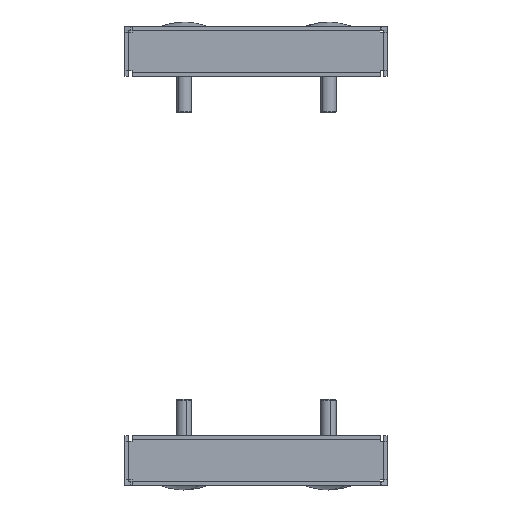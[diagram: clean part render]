
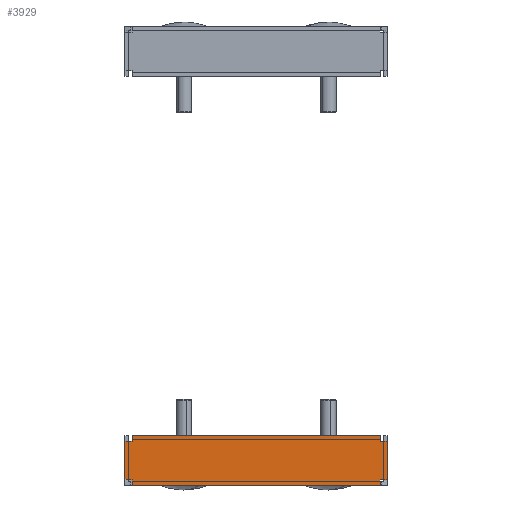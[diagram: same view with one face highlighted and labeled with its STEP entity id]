
A CAD part, left-side view. The second image highlights one B-rep face of the part: STEP entity #3929.
In plain terms, the highlighted planar face has unit normal (-1, 0, 0).
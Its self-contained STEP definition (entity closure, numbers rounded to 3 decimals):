
#26 = ORIENTED_EDGE ( 'NONE', *, *, #4561, .T. ) ;
#35 = LINE ( 'NONE', #3122, #6276 ) ;
#46 = PLANE ( 'NONE',  #2407 ) ;
#89 = CARTESIAN_POINT ( 'NONE',  ( -200., -47.3, 15.4 ) ) ;
#203 = VERTEX_POINT ( 'NONE', #3639 ) ;
#234 = DIRECTION ( 'NONE',  ( 0., 0., 1. ) ) ;
#245 = EDGE_CURVE ( 'NONE', #1990, #8384, #3584, .T. ) ;
#259 = CARTESIAN_POINT ( 'NONE',  ( -200., 49.299, 0.734 ) ) ;
#285 = LINE ( 'NONE', #6387, #9744 ) ;
#361 = LINE ( 'NONE', #8034, #8534 ) ;
#478 = VECTOR ( 'NONE', #9352, 1000. ) ;
#537 = DIRECTION ( 'NONE',  ( 0., -1., 0. ) ) ;
#670 = CARTESIAN_POINT ( 'NONE',  ( -200., -50., 15.4 ) ) ;
#772 = VERTEX_POINT ( 'NONE', #670 ) ;
#842 = ORIENTED_EDGE ( 'NONE', *, *, #4607, .T. ) ;
#968 = DIRECTION ( 'NONE',  ( 0., 0., -1. ) ) ;
#985 = CARTESIAN_POINT ( 'NONE',  ( -200., 47.3, -1.5 ) ) ;
#987 = CARTESIAN_POINT ( 'NONE',  ( -200., -47.9, 15.4 ) ) ;
#1218 = CARTESIAN_POINT ( 'NONE',  ( -200., 47.9, 15.4 ) ) ;
#1245 = ORIENTED_EDGE ( 'NONE', *, *, #1907, .F. ) ;
#1402 = ORIENTED_EDGE ( 'NONE', *, *, #6315, .F. ) ;
#1430 = DIRECTION ( 'NONE',  ( 0., -1., 0. ) ) ;
#1632 = EDGE_CURVE ( 'NONE', #4435, #772, #3771, .T. ) ;
#1661 = CARTESIAN_POINT ( 'NONE',  ( -200., -47.9, 0.6 ) ) ;
#1791 = CARTESIAN_POINT ( 'NONE',  ( -200., -47.3, 0. ) ) ;
#1837 = VECTOR ( 'NONE', #537, 1000. ) ;
#1907 = EDGE_CURVE ( 'NONE', #9873, #1990, #285, .T. ) ;
#1990 = VERTEX_POINT ( 'NONE', #6396 ) ;
#1994 = CARTESIAN_POINT ( 'NONE',  ( -200., -48.249, 0.637 ) ) ;
#2049 = CARTESIAN_POINT ( 'NONE',  ( -200., 47.9, 15.4 ) ) ;
#2373 = FACE_OUTER_BOUND ( 'NONE', #5038, .T. ) ;
#2395 = CARTESIAN_POINT ( 'NONE',  ( -200., -50., 0. ) ) ;
#2407 = AXIS2_PLACEMENT_3D ( 'NONE', #9324, #9375, #8636 ) ;
#2436 = CARTESIAN_POINT ( 'NONE',  ( -200., 48.249, 0.637 ) ) ;
#2505 = CARTESIAN_POINT ( 'NONE',  ( -200., 50., 0. ) ) ;
#2646 = CARTESIAN_POINT ( 'NONE',  ( -200., 50., 0.777 ) ) ;
#2659 = VERTEX_POINT ( 'NONE', #2049 ) ;
#2744 = ORIENTED_EDGE ( 'NONE', *, *, #3371, .T. ) ;
#2766 = LINE ( 'NONE', #2958, #7080 ) ;
#2775 = VECTOR ( 'NONE', #6249, 1000. ) ;
#2802 = ORIENTED_EDGE ( 'NONE', *, *, #3999, .T. ) ;
#2892 = CARTESIAN_POINT ( 'NONE',  ( -200., 47.9, 0.6 ) ) ;
#2958 = CARTESIAN_POINT ( 'NONE',  ( -200., 0., -1.5 ) ) ;
#3122 = CARTESIAN_POINT ( 'NONE',  ( -200., 47.9, 15.4 ) ) ;
#3156 = LINE ( 'NONE', #2395, #6660 ) ;
#3371 = EDGE_CURVE ( 'NONE', #8149, #6115, #8925, .T. ) ;
#3584 = LINE ( 'NONE', #5088, #1837 ) ;
#3639 = CARTESIAN_POINT ( 'NONE',  ( -200., -47.3, 15.4 ) ) ;
#3670 = CARTESIAN_POINT ( 'NONE',  ( -200., -50., 0.777 ) ) ;
#3673 = EDGE_CURVE ( 'NONE', #203, #8384, #9215, .T. ) ;
#3708 = ORIENTED_EDGE ( 'NONE', *, *, #6697, .F. ) ;
#3771 = LINE ( 'NONE', #5992, #7021 ) ;
#3929 = ADVANCED_FACE ( 'NONE', ( #2373 ), #46, .F. ) ;
#3950 = ORIENTED_EDGE ( 'NONE', *, *, #1632, .F. ) ;
#3997 = CARTESIAN_POINT ( 'NONE',  ( -200., 50., 15.4 ) ) ;
#3999 = EDGE_CURVE ( 'NONE', #4435, #203, #361, .T. ) ;
#4043 = VECTOR ( 'NONE', #8260, 1000. ) ;
#4048 = ORIENTED_EDGE ( 'NONE', *, *, #4765, .F. ) ;
#4324 = DIRECTION ( 'NONE',  ( 0., -1., 0. ) ) ;
#4407 = DIRECTION ( 'NONE',  ( 0., 1., 0. ) ) ;
#4421 = CARTESIAN_POINT ( 'NONE',  ( -200., -47.9, 0.6 ) ) ;
#4435 = VERTEX_POINT ( 'NONE', #987 ) ;
#4455 = LINE ( 'NONE', #1218, #7915 ) ;
#4561 = EDGE_CURVE ( 'NONE', #6546, #8325, #8689, .T. ) ;
#4592 = ORIENTED_EDGE ( 'NONE', *, *, #6404, .T. ) ;
#4607 = EDGE_CURVE ( 'NONE', #8978, #5195, #2766, .T. ) ;
#4641 = DIRECTION ( 'NONE',  ( 0., 0., 1. ) ) ;
#4643 = ORIENTED_EDGE ( 'NONE', *, *, #245, .F. ) ;
#4748 = VERTEX_POINT ( 'NONE', #7959 ) ;
#4758 = LINE ( 'NONE', #1661, #6604 ) ;
#4765 = EDGE_CURVE ( 'NONE', #4748, #5195, #5701, .T. ) ;
#4915 = ORIENTED_EDGE ( 'NONE', *, *, #9417, .T. ) ;
#4964 = CARTESIAN_POINT ( 'NONE',  ( -200., -47.9, 0.6 ) ) ;
#5038 = EDGE_LOOP ( 'NONE', ( #2802, #8558, #4643, #1245, #3708, #6909, #4592, #2744, #4915, #9043, #842, #4048, #6875, #26, #1402, #3950 ) ) ;
#5082 = CARTESIAN_POINT ( 'NONE',  ( -200., -49.299, 0.734 ) ) ;
#5088 = CARTESIAN_POINT ( 'NONE',  ( -200., 0., 17.5 ) ) ;
#5157 = EDGE_CURVE ( 'NONE', #6546, #4748, #4758, .T. ) ;
#5176 = CARTESIAN_POINT ( 'NONE',  ( -200., -48.599, 0.674 ) ) ;
#5195 = VERTEX_POINT ( 'NONE', #6410 ) ;
#5406 = DIRECTION ( 'NONE',  ( 0., 1., 0. ) ) ;
#5409 = CARTESIAN_POINT ( 'NONE',  ( -200., 48.599, 0.674 ) ) ;
#5701 = LINE ( 'NONE', #1791, #478 ) ;
#5741 = EDGE_CURVE ( 'NONE', #2659, #9434, #4455, .T. ) ;
#5815 = EDGE_CURVE ( 'NONE', #8682, #8978, #8469, .T. ) ;
#5854 = CARTESIAN_POINT ( 'NONE',  ( -200., -50., 0.777 ) ) ;
#5992 = CARTESIAN_POINT ( 'NONE',  ( -200., 0., 15.4 ) ) ;
#6115 = VERTEX_POINT ( 'NONE', #2892 ) ;
#6249 = DIRECTION ( 'NONE',  ( 0., -1., 0. ) ) ;
#6257 = VECTOR ( 'NONE', #4641, 1000. ) ;
#6270 = VECTOR ( 'NONE', #968, 1000. ) ;
#6276 = VECTOR ( 'NONE', #1430, 1000. ) ;
#6315 = EDGE_CURVE ( 'NONE', #772, #8325, #3156, .T. ) ;
#6320 = DIRECTION ( 'NONE',  ( 0., 0., -1. ) ) ;
#6358 = CARTESIAN_POINT ( 'NONE',  ( -200., 47.9, 0.6 ) ) ;
#6387 = CARTESIAN_POINT ( 'NONE',  ( -200., 47.3, 0. ) ) ;
#6396 = CARTESIAN_POINT ( 'NONE',  ( -200., 47.3, 17.5 ) ) ;
#6404 = EDGE_CURVE ( 'NONE', #9434, #8149, #9396, .T. ) ;
#6410 = CARTESIAN_POINT ( 'NONE',  ( -200., -47.3, -1.5 ) ) ;
#6546 = VERTEX_POINT ( 'NONE', #4964 ) ;
#6556 = CARTESIAN_POINT ( 'NONE',  ( -200., -47.3, 17.5 ) ) ;
#6604 = VECTOR ( 'NONE', #5406, 1000. ) ;
#6660 = VECTOR ( 'NONE', #6320, 1000. ) ;
#6697 = EDGE_CURVE ( 'NONE', #2659, #9873, #35, .T. ) ;
#6701 = CARTESIAN_POINT ( 'NONE',  ( -200., 47.3, 0.6 ) ) ;
#6792 = CARTESIAN_POINT ( 'NONE',  ( -200., 47.3, 15.4 ) ) ;
#6875 = ORIENTED_EDGE ( 'NONE', *, *, #5157, .F. ) ;
#6909 = ORIENTED_EDGE ( 'NONE', *, *, #5741, .T. ) ;
#7021 = VECTOR ( 'NONE', #9886, 1000. ) ;
#7080 = VECTOR ( 'NONE', #4324, 1000. ) ;
#7161 = CARTESIAN_POINT ( 'NONE',  ( -200., 49.649, 0.758 ) ) ;
#7480 = CARTESIAN_POINT ( 'NONE',  ( -200., -49.649, 0.758 ) ) ;
#7491 = CARTESIAN_POINT ( 'NONE',  ( -200., 47.3, 0.6 ) ) ;
#7826 = LINE ( 'NONE', #6358, #2775 ) ;
#7915 = VECTOR ( 'NONE', #4407, 1000. ) ;
#7959 = CARTESIAN_POINT ( 'NONE',  ( -200., -47.3, 0.6 ) ) ;
#7988 = DIRECTION ( 'NONE',  ( 0., 1., 0. ) ) ;
#8034 = CARTESIAN_POINT ( 'NONE',  ( -200., -47.9, 15.4 ) ) ;
#8149 = VERTEX_POINT ( 'NONE', #2646 ) ;
#8260 = DIRECTION ( 'NONE',  ( 0., 0., -1. ) ) ;
#8325 = VERTEX_POINT ( 'NONE', #5854 ) ;
#8384 = VERTEX_POINT ( 'NONE', #6556 ) ;
#8469 = LINE ( 'NONE', #6701, #4043 ) ;
#8534 = VECTOR ( 'NONE', #7988, 1000. ) ;
#8558 = ORIENTED_EDGE ( 'NONE', *, *, #3673, .T. ) ;
#8581 = CARTESIAN_POINT ( 'NONE',  ( -200., 47.9, 0.6 ) ) ;
#8636 = DIRECTION ( 'NONE',  ( 0., 0., -1. ) ) ;
#8682 = VERTEX_POINT ( 'NONE', #7491 ) ;
#8689 = B_SPLINE_CURVE_WITH_KNOTS ( 'NONE', 3,
 ( #4421, #1994, #5176, #5082, #7480, #3670 ),
 .UNSPECIFIED., .F., .F.,
 ( 4, 2, 4 ),
 ( 0.006, 0.007, 0.008 ),
 .UNSPECIFIED. ) ;
#8925 = B_SPLINE_CURVE_WITH_KNOTS ( 'NONE', 3,
 ( #9229, #7161, #259, #5409, #2436, #8581 ),
 .UNSPECIFIED., .F., .F.,
 ( 4, 2, 4 ),
 ( 0.006, 0.007, 0.008 ),
 .UNSPECIFIED. ) ;
#8978 = VERTEX_POINT ( 'NONE', #985 ) ;
#9043 = ORIENTED_EDGE ( 'NONE', *, *, #5815, .T. ) ;
#9215 = LINE ( 'NONE', #89, #6257 ) ;
#9229 = CARTESIAN_POINT ( 'NONE',  ( -200., 50., 0.777 ) ) ;
#9324 = CARTESIAN_POINT ( 'NONE',  ( -200., 0., 0. ) ) ;
#9352 = DIRECTION ( 'NONE',  ( 0., 0., -1. ) ) ;
#9375 = DIRECTION ( 'NONE',  ( 1., 0., 0. ) ) ;
#9396 = LINE ( 'NONE', #2505, #6270 ) ;
#9417 = EDGE_CURVE ( 'NONE', #6115, #8682, #7826, .T. ) ;
#9434 = VERTEX_POINT ( 'NONE', #3997 ) ;
#9744 = VECTOR ( 'NONE', #234, 1000. ) ;
#9873 = VERTEX_POINT ( 'NONE', #6792 ) ;
#9886 = DIRECTION ( 'NONE',  ( 0., -1., 0. ) ) ;
